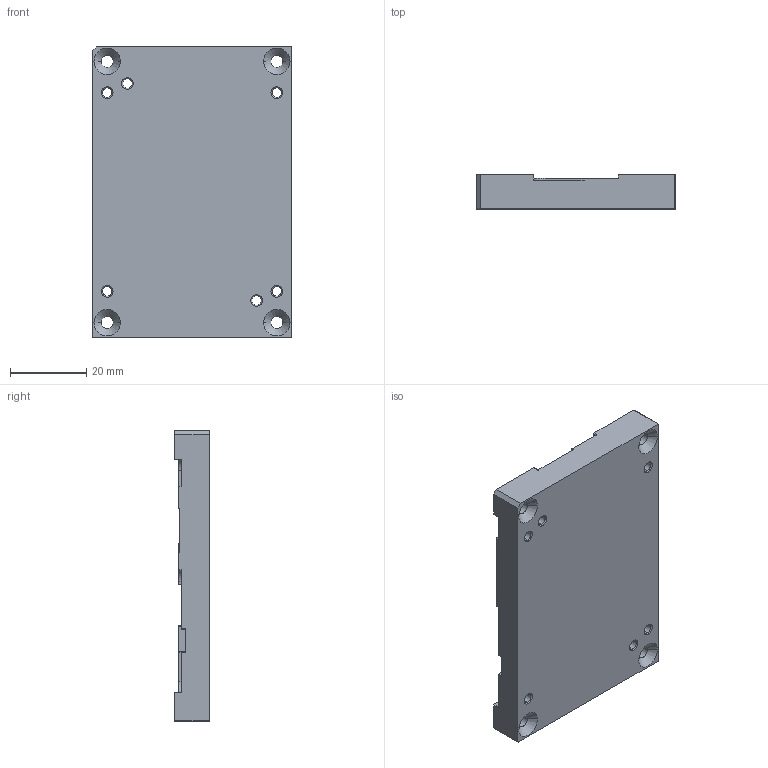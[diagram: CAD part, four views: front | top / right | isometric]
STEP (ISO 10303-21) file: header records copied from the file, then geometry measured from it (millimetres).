
FILE_DESCRIPTION (( 'STEP AP203' ), '1' );
FILE_NAME ('34362.STEP', '2024-08-11T12:07:53', ( '' ), ( '' ), 'SwSTEP 2.0', 'SolidWorks 2018', '' );
FILE_SCHEMA (( 'CONFIG_CONTROL_DESIGN' ));
Length unit declared in the file: millimetre
Products named in the file (1): 34362
Bounding box: 52 x 9 x 76 mm (x, y, z)
Volume: 27593.1 mm3; surface area: 11306.9 mm2
Topology: 1 solids, 1 shells, 272 faces, 767 edges, 494 vertices
Faces by surface type: cylinder 137, plane 98, cone 37
Entity records: 8930 total; most frequent: DIRECTION 1615, CARTESIAN_POINT 1538, ORIENTED_EDGE 1518, EDGE_CURVE 759, AXIS2_PLACEMENT_3D 587, VERTEX_POINT 494, VECTOR 441, LINE 441
